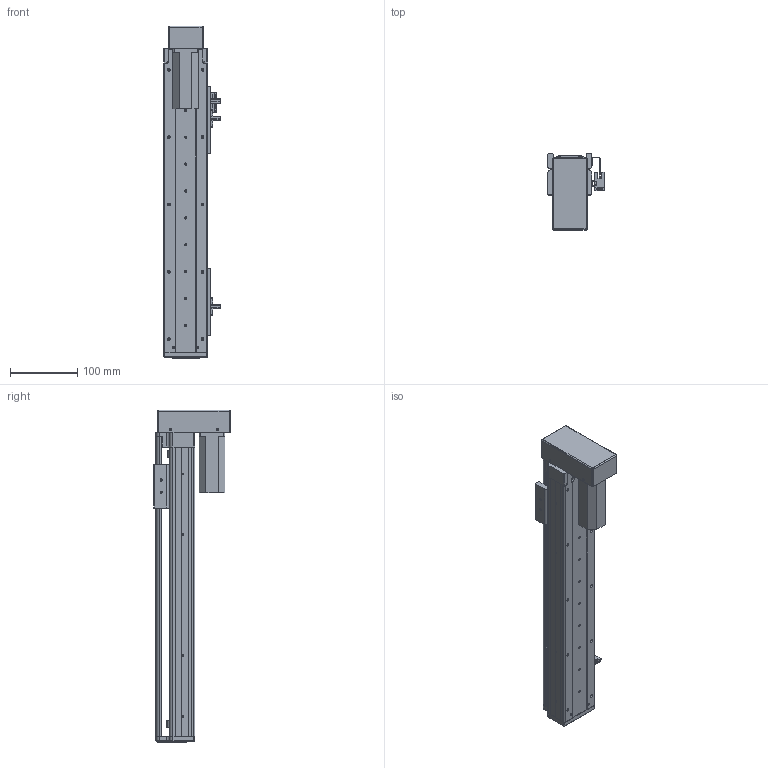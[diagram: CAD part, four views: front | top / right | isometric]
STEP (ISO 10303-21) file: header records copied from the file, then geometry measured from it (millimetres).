
FILE_DESCRIPTION (( 'STEP AP203' ), '1' );
FILE_NAME ('RY60-L1210-300-BK.SLDASM_300.step', '2021-02-20T06:42:06', ( '盈信电脑' ), ( '东莞市道滘镇水果街19号' ), 'SwSTEP 2.0', 'SolidWorks 2012', '' );
FILE_SCHEMA (( 'CONFIG_CONTROL_DESIGN' ));
Length unit declared in the file: millimetre
Products named in the file (13): RY60-L1210-300-BK.SLDASM_300; 侂狟100W; 滅袉蝶18-10; RY60狟殏萇儂假蚾啣; RY60狟殏萇儂欶100W; RY80俋离覜茼え; 覜茼ん672; RY60綴裔啣; RY60转折电机端支撑座; RY60-300倰第裔啣-BK; RY60臏賑輸; 672嫖萇羲壽假蚾釱; RY60-300倰第菁釱-BK
Assembly tree (18 placements, depth 2):
  RY60-L1210-300-BK.SLDASM_300
    RY60-300倰第菁釱-BK
    RY60臏賑輸
    RY60-300倰第裔啣-BK
    672嫖萇羲壽假蚾釱  x2
    RY60綴裔啣
    覜茼ん672  x3
    RY80俋离覜茼え
    RY60转折电机端支撑座
    RY60狟殏萇儂假蚾啣
    侂狟100W
    RY60狟殏萇儂欶100W
    滅袉蝶18-10  x4
Bounding box: 83.7 x 113.5 x 493 mm (x, y, z)
Volume: 723804.4 mm3; surface area: 356272.8 mm2
Topology: 18 solids, 18 shells, 1401 faces, 3899 edges, 2498 vertices
Faces by surface type: plane 703, cylinder 577, cone 104, bspline 17
Entity records: 41330 total; most frequent: CARTESIAN_POINT 9627, ORIENTED_EDGE 6374, DIRECTION 6201, EDGE_CURVE 3187, AXIS2_PLACEMENT_3D 2122, VERTEX_POINT 2078, VECTOR 1957, LINE 1957
